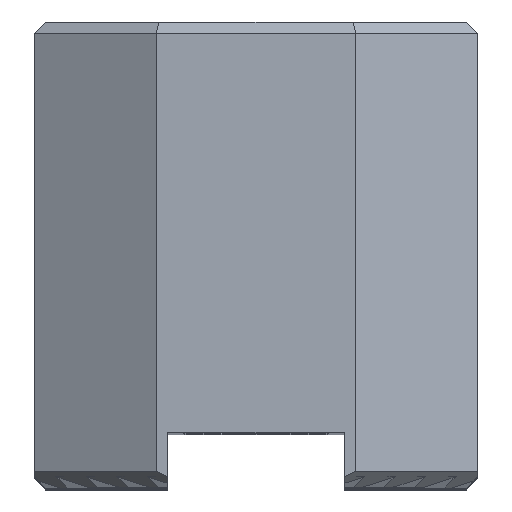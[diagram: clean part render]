
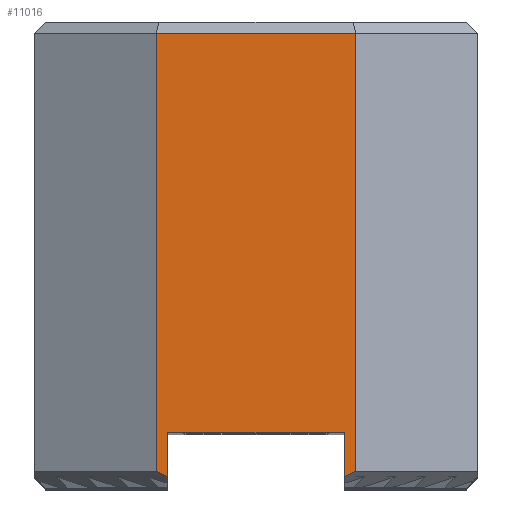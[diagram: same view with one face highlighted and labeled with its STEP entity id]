
A CAD part, top view. The second image highlights one B-rep face of the part: STEP entity #11016.
In plain terms, the highlighted planar face has unit normal (0, 0, 1).
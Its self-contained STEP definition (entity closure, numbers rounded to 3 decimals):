
#648=FACE_OUTER_BOUND('',#1264,.T.);
#1264=EDGE_LOOP('',(#9793,#9794,#9795,#9796,#9797,#9798,#9799,#9800,#9801,
#9802));
#1267=LINE('',#14432,#2783);
#1491=LINE('',#14879,#3007);
#1714=LINE('',#15329,#3230);
#2160=LINE('',#16222,#3676);
#2730=LINE('',#17298,#4246);
#2743=LINE('',#17391,#4259);
#2746=LINE('',#17397,#4262);
#2750=LINE('',#17406,#4266);
#2773=LINE('',#17451,#4289);
#2780=LINE('',#17483,#4296);
#2783=VECTOR('',#11668,10.);
#3007=VECTOR('',#11894,10.);
#3230=VECTOR('',#12123,10.);
#3676=VECTOR('',#13011,10.);
#4246=VECTOR('',#14155,10.);
#4259=VECTOR('',#14318,10.);
#4262=VECTOR('',#14323,10.);
#4266=VECTOR('',#14331,10.);
#4289=VECTOR('',#14380,10.);
#4296=VECTOR('',#14421,10.);
#4299=VERTEX_POINT('',#14429);
#4300=VERTEX_POINT('',#14431);
#4522=VERTEX_POINT('',#14877);
#4746=VERTEX_POINT('',#15327);
#4972=VERTEX_POINT('',#16221);
#5191=VERTEX_POINT('',#17297);
#5196=VERTEX_POINT('',#17389);
#5198=VERTEX_POINT('',#17395);
#5201=VERTEX_POINT('',#17405);
#5209=VERTEX_POINT('',#17445);
#5221=EDGE_CURVE('',#4300,#4299,#1267,.T.);
#5445=EDGE_CURVE('',#4299,#4522,#1491,.T.);
#5670=EDGE_CURVE('',#4522,#4746,#1714,.T.);
#6116=EDGE_CURVE('',#4300,#4972,#2160,.T.);
#6688=EDGE_CURVE('',#4972,#5191,#2730,.T.);
#6701=EDGE_CURVE('',#5196,#4746,#2743,.T.);
#6704=EDGE_CURVE('',#5198,#5196,#2746,.T.);
#6708=EDGE_CURVE('',#5191,#5201,#2750,.T.);
#6731=EDGE_CURVE('',#5201,#5209,#2773,.T.);
#6746=EDGE_CURVE('',#5198,#5209,#2780,.T.);
#9793=ORIENTED_EDGE('',*,*,#5670,.T.);
#9794=ORIENTED_EDGE('',*,*,#6701,.F.);
#9795=ORIENTED_EDGE('',*,*,#6704,.F.);
#9796=ORIENTED_EDGE('',*,*,#6746,.T.);
#9797=ORIENTED_EDGE('',*,*,#6731,.F.);
#9798=ORIENTED_EDGE('',*,*,#6708,.F.);
#9799=ORIENTED_EDGE('',*,*,#6688,.F.);
#9800=ORIENTED_EDGE('',*,*,#6116,.F.);
#9801=ORIENTED_EDGE('',*,*,#5221,.T.);
#9802=ORIENTED_EDGE('',*,*,#5445,.T.);
#10406=PLANE('',#11661);
#11016=ADVANCED_FACE('',(#648),#10406,.T.);
#11661=AXIS2_PLACEMENT_3D('',#17484,#14422,#14423);
#11668=DIRECTION('',(0.,1.,0.));
#11894=DIRECTION('',(1.,0.,0.));
#12123=DIRECTION('',(0.,-1.,0.));
#13011=DIRECTION('',(-1.,0.,0.));
#14155=DIRECTION('',(-0.902,0.432,0.));
#14318=DIRECTION('',(-1.,0.,0.));
#14323=DIRECTION('',(-0.902,-0.432,0.));
#14331=DIRECTION('',(0.,1.,0.));
#14380=DIRECTION('',(1.,0.,0.));
#14421=DIRECTION('',(0.,1.,0.));
#14422=DIRECTION('center_axis',(0.,0.,1.));
#14423=DIRECTION('ref_axis',(1.,0.,0.));
#14429=CARTESIAN_POINT('',(-7.95,5.,55.));
#14431=CARTESIAN_POINT('',(-7.95,1.,55.));
#14432=CARTESIAN_POINT('',(-7.95,0.,55.));
#14877=CARTESIAN_POINT('',(7.95,5.,55.));
#14879=CARTESIAN_POINT('',(-8.475,5.,55.));
#15327=CARTESIAN_POINT('',(7.95,1.,55.));
#15329=CARTESIAN_POINT('',(7.95,2.5,55.));
#16221=CARTESIAN_POINT('',(-7.956,1.,55.));
#16222=CARTESIAN_POINT('',(-4.5,1.,55.));
#17297=CARTESIAN_POINT('',(-9.,1.5,55.));
#17298=CARTESIAN_POINT('',(-13.944,3.868,55.));
#17389=CARTESIAN_POINT('',(7.956,1.,55.));
#17391=CARTESIAN_POINT('',(-4.5,1.,55.));
#17395=CARTESIAN_POINT('',(9.,1.5,55.));
#17397=CARTESIAN_POINT('',(4.386,-0.709,55.));
#17405=CARTESIAN_POINT('',(-9.,41.,55.));
#17406=CARTESIAN_POINT('',(-9.,0.,55.));
#17445=CARTESIAN_POINT('',(9.,41.,55.));
#17451=CARTESIAN_POINT('',(-4.5,41.,55.));
#17483=CARTESIAN_POINT('',(9.,0.,55.));
#17484=CARTESIAN_POINT('Origin',(-9.,0.,55.));
